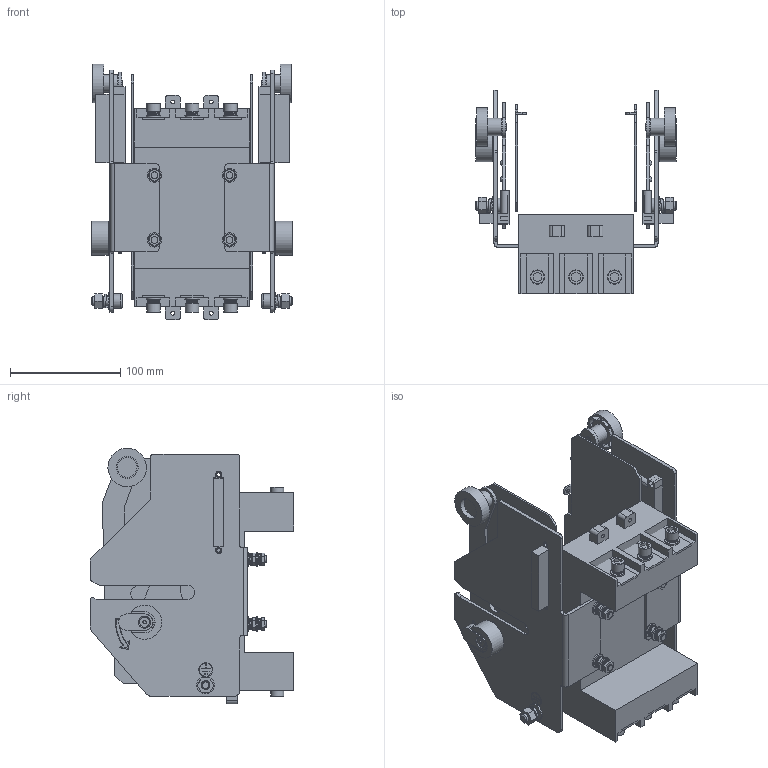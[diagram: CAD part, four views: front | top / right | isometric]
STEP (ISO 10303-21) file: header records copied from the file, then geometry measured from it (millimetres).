
FILE_DESCRIPTION(/* description */ (''),/* implementation_level */ '2;1');
FILE_NAME(/* name */ '250抽屉式外形.stp',/* time_stamp */ '2023-09-15T15:48:10+08:00',/* author */ (''),/* organization */ (''),/* preprocessor_version */ 'ST-DEVELOPER v16',/* originating_system */ 'SIEMENS PLM Software NX 10.0',/* authorisation */ '');
FILE_SCHEMA (('AUTOMOTIVE_DESIGN { 1 0 10303 214 3 1 1 1 }'));
Products named in the file (1): midi4F30647E03tf
Bounding box: 183.13 x 185 x 232.35 mm (x, y, z)
Volume: 934315.1 mm3; surface area: 404166.6 mm2
Topology: 75 solids, 93 shells, 1623 faces, 3932 edges, 2616 vertices
Faces by surface type: plane 1023, cylinder 370, bspline 148, torus 30, cone 24, extrusion 18, sphere 10
Full cylindrical faces by diameter (mm): 2 x16, 3 x2, 3.2 x16, 3.5 x12, 4.3 x4, 4.4 x16, 5 x12, 5.2 x4, 5.9 x2, 6 x18, 6.4 x2, 6.5 x20, 6.8 x2, 8 x4, 8.1 x2, 8.3 x2, 8.5 x2, 9 x2, 10 x2, 10.3 x2, 11 x4, 12 x10, 13 x22, 13.2 x2, 16 x4, 18 x2, 20 x2, 35 x2
Entity records: 55515 total; most frequent: CARTESIAN_POINT 18495, ORIENTED_EDGE 7228, DIRECTION 7112, EDGE_CURVE 3614, VERTEX_POINT 2532, AXIS2_PLACEMENT_3D 2415, VECTOR 2282, LINE 2264
